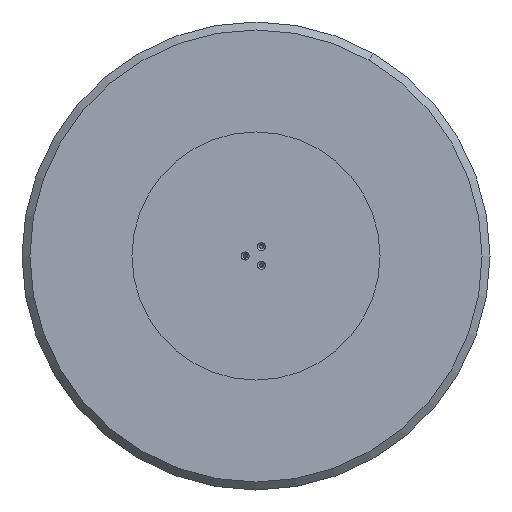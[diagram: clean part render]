
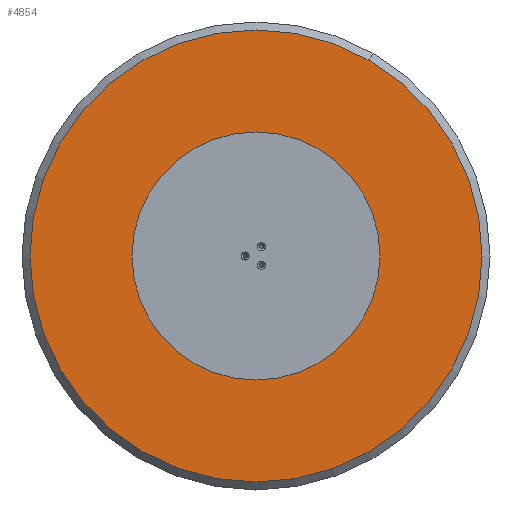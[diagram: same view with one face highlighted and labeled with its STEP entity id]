
A CAD part, front view. The second image highlights one B-rep face of the part: STEP entity #4854.
In plain terms, the highlighted planar face has unit normal (0, -1, 0).
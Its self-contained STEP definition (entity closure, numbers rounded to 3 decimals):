
#135 = CARTESIAN_POINT ( 'NONE',  ( 0., 0., 0. ) ) ;
#160 = AXIS2_PLACEMENT_3D ( 'NONE', #3288, #6071, #4707 ) ;
#261 = EDGE_CURVE ( 'NONE', #4608, #2299, #2538, .T. ) ;
#401 = ORIENTED_EDGE ( 'NONE', *, *, #1229, .T. ) ;
#439 = DIRECTION ( 'NONE',  ( 0., -1., 0. ) ) ;
#459 = ORIENTED_EDGE ( 'NONE', *, *, #4711, .F. ) ;
#484 = CARTESIAN_POINT ( 'NONE',  ( 0., 0., 113.097 ) ) ;
#550 = ORIENTED_EDGE ( 'NONE', *, *, #4966, .F. ) ;
#577 = VERTEX_POINT ( 'NONE', #484 ) ;
#610 = CARTESIAN_POINT ( 'NONE',  ( -95., 0., -58.248 ) ) ;
#615 = ORIENTED_EDGE ( 'NONE', *, *, #3322, .T. ) ;
#743 = CARTESIAN_POINT ( 'NONE',  ( 0., 0., 483. ) ) ;
#746 = DIRECTION ( 'NONE',  ( 0., 0., -1. ) ) ;
#804 = CIRCLE ( 'NONE', #4393, 3.4 ) ;
#830 = CARTESIAN_POINT ( 'NONE',  ( 95., 0., -58.248 ) ) ;
#880 = DIRECTION ( 'NONE',  ( 0., -1., 0. ) ) ;
#930 = CARTESIAN_POINT ( 'NONE',  ( -95., 0., -54.848 ) ) ;
#1154 = DIRECTION ( 'NONE',  ( 0., 0., -1. ) ) ;
#1156 = CARTESIAN_POINT ( 'NONE',  ( 0., 0., 0. ) ) ;
#1221 = ORIENTED_EDGE ( 'NONE', *, *, #261, .F. ) ;
#1229 = EDGE_CURVE ( 'NONE', #3440, #2997, #3438, .T. ) ;
#1335 = CARTESIAN_POINT ( 'NONE',  ( 0., 0., 109.697 ) ) ;
#1630 = DIRECTION ( 'NONE',  ( 0., 0., -1. ) ) ;
#1654 = DIRECTION ( 'NONE',  ( 0., -1., 0. ) ) ;
#1796 = CIRCLE ( 'NONE', #4448, 3.4 ) ;
#1852 = DIRECTION ( 'NONE',  ( 0., 0., -1. ) ) ;
#1888 = CARTESIAN_POINT ( 'NONE',  ( 0., 0., 106.297 ) ) ;
#1907 = EDGE_CURVE ( 'NONE', #4330, #5335, #1796, .T. ) ;
#1967 = EDGE_LOOP ( 'NONE', ( #459, #3391 ) ) ;
#2032 = EDGE_LOOP ( 'NONE', ( #1221, #5126 ) ) ;
#2043 = AXIS2_PLACEMENT_3D ( 'NONE', #1335, #5211, #2751 ) ;
#2092 = DIRECTION ( 'NONE',  ( 0., -1., 0. ) ) ;
#2140 = AXIS2_PLACEMENT_3D ( 'NONE', #2476, #4946, #2561 ) ;
#2161 = DIRECTION ( 'NONE',  ( 0., -1., 0. ) ) ;
#2299 = VERTEX_POINT ( 'NONE', #3293 ) ;
#2330 = CIRCLE ( 'NONE', #160, 3.4 ) ;
#2363 = AXIS2_PLACEMENT_3D ( 'NONE', #4693, #4252, #5661 ) ;
#2379 = FACE_BOUND ( 'NONE', #2032, .T. ) ;
#2476 = CARTESIAN_POINT ( 'NONE',  ( 0., 0., 0. ) ) ;
#2538 = CIRCLE ( 'NONE', #4269, 3.4 ) ;
#2561 = DIRECTION ( 'NONE',  ( 0., 0., -1. ) ) ;
#2626 = CIRCLE ( 'NONE', #5178, 483. ) ;
#2751 = DIRECTION ( 'NONE',  ( 0., 0., -1. ) ) ;
#2832 = EDGE_LOOP ( 'NONE', ( #2900, #4501 ) ) ;
#2894 = DIRECTION ( 'NONE',  ( 0., -1., 0. ) ) ;
#2900 = ORIENTED_EDGE ( 'NONE', *, *, #3454, .F. ) ;
#2913 = DIRECTION ( 'NONE',  ( 0., 0., -1. ) ) ;
#2997 = VERTEX_POINT ( 'NONE', #3146 ) ;
#3041 = CIRCLE ( 'NONE', #5698, 3.4 ) ;
#3146 = CARTESIAN_POINT ( 'NONE',  ( 0., 0., -483. ) ) ;
#3262 = CARTESIAN_POINT ( 'NONE',  ( 0., 0., -3.4 ) ) ;
#3288 = CARTESIAN_POINT ( 'NONE',  ( -95., 0., -54.848 ) ) ;
#3293 = CARTESIAN_POINT ( 'NONE',  ( 95., 0., -51.448 ) ) ;
#3322 = EDGE_CURVE ( 'NONE', #2997, #3440, #2626, .T. ) ;
#3391 = ORIENTED_EDGE ( 'NONE', *, *, #1907, .F. ) ;
#3438 = CIRCLE ( 'NONE', #3635, 483. ) ;
#3440 = VERTEX_POINT ( 'NONE', #743 ) ;
#3454 = EDGE_CURVE ( 'NONE', #3992, #4515, #2330, .T. ) ;
#3481 = CIRCLE ( 'NONE', #2140, 3.4 ) ;
#3613 = CARTESIAN_POINT ( 'NONE',  ( 0., 0., 0. ) ) ;
#3635 = AXIS2_PLACEMENT_3D ( 'NONE', #3613, #1654, #5074 ) ;
#3657 = CARTESIAN_POINT ( 'NONE',  ( 95., 0., -54.848 ) ) ;
#3715 = PLANE ( 'NONE',  #2363 ) ;
#3744 = FACE_BOUND ( 'NONE', #2832, .T. ) ;
#3992 = VERTEX_POINT ( 'NONE', #610 ) ;
#3993 = AXIS2_PLACEMENT_3D ( 'NONE', #930, #2894, #6293 ) ;
#4062 = EDGE_LOOP ( 'NONE', ( #401, #615 ) ) ;
#4099 = EDGE_LOOP ( 'NONE', ( #550, #5495 ) ) ;
#4252 = DIRECTION ( 'NONE',  ( 0., -1., 0. ) ) ;
#4269 = AXIS2_PLACEMENT_3D ( 'NONE', #3657, #6092, #1630 ) ;
#4330 = VERTEX_POINT ( 'NONE', #5186 ) ;
#4342 = CARTESIAN_POINT ( 'NONE',  ( 95., 0., -54.848 ) ) ;
#4358 = CARTESIAN_POINT ( 'NONE',  ( -95., 0., -51.448 ) ) ;
#4393 = AXIS2_PLACEMENT_3D ( 'NONE', #5133, #880, #1852 ) ;
#4448 = AXIS2_PLACEMENT_3D ( 'NONE', #1156, #2161, #746 ) ;
#4501 = ORIENTED_EDGE ( 'NONE', *, *, #4604, .F. ) ;
#4515 = VERTEX_POINT ( 'NONE', #4358 ) ;
#4604 = EDGE_CURVE ( 'NONE', #4515, #3992, #5934, .T. ) ;
#4608 = VERTEX_POINT ( 'NONE', #830 ) ;
#4693 = CARTESIAN_POINT ( 'NONE',  ( 0., 0., 0. ) ) ;
#4707 = DIRECTION ( 'NONE',  ( 0., 0., -1. ) ) ;
#4711 = EDGE_CURVE ( 'NONE', #5335, #4330, #3481, .T. ) ;
#4791 = FACE_BOUND ( 'NONE', #4099, .T. ) ;
#4854 = ADVANCED_FACE ( 'NONE', ( #3744, #4791, #2379, #6282, #5628 ), #3715, .T. ) ;
#4899 = CIRCLE ( 'NONE', #2043, 3.4 ) ;
#4946 = DIRECTION ( 'NONE',  ( 0., -1., 0. ) ) ;
#4966 = EDGE_CURVE ( 'NONE', #5073, #577, #4899, .T. ) ;
#5073 = VERTEX_POINT ( 'NONE', #1888 ) ;
#5074 = DIRECTION ( 'NONE',  ( 0., 0., -1. ) ) ;
#5126 = ORIENTED_EDGE ( 'NONE', *, *, #5848, .F. ) ;
#5133 = CARTESIAN_POINT ( 'NONE',  ( 0., 0., 109.697 ) ) ;
#5178 = AXIS2_PLACEMENT_3D ( 'NONE', #135, #2092, #1154 ) ;
#5186 = CARTESIAN_POINT ( 'NONE',  ( 0., 0., 3.4 ) ) ;
#5211 = DIRECTION ( 'NONE',  ( 0., -1., 0. ) ) ;
#5335 = VERTEX_POINT ( 'NONE', #3262 ) ;
#5434 = EDGE_CURVE ( 'NONE', #577, #5073, #804, .T. ) ;
#5495 = ORIENTED_EDGE ( 'NONE', *, *, #5434, .F. ) ;
#5628 = FACE_BOUND ( 'NONE', #1967, .T. ) ;
#5661 = DIRECTION ( 'NONE',  ( 0., 0., -1. ) ) ;
#5698 = AXIS2_PLACEMENT_3D ( 'NONE', #4342, #439, #2913 ) ;
#5848 = EDGE_CURVE ( 'NONE', #2299, #4608, #3041, .T. ) ;
#5934 = CIRCLE ( 'NONE', #3993, 3.4 ) ;
#6071 = DIRECTION ( 'NONE',  ( 0., -1., 0. ) ) ;
#6092 = DIRECTION ( 'NONE',  ( 0., -1., 0. ) ) ;
#6282 = FACE_OUTER_BOUND ( 'NONE', #4062, .T. ) ;
#6293 = DIRECTION ( 'NONE',  ( 0., 0., -1. ) ) ;
